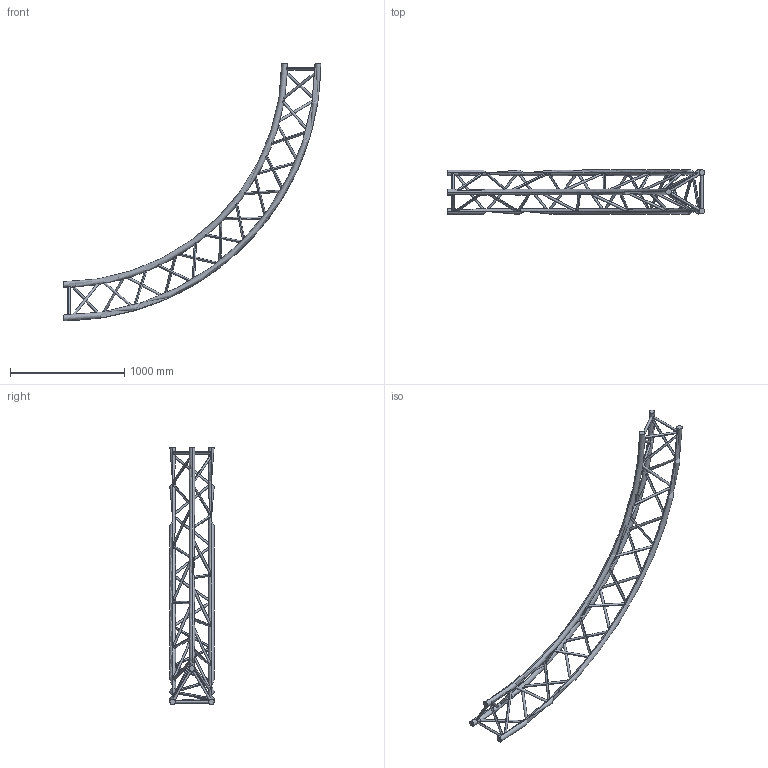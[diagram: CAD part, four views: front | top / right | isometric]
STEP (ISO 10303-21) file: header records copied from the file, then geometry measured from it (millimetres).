
FILE_DESCRIPTION (( 'STEP AP203' ), '1' );
FILE_NAME ('SXC39450PI.STEP', '2009-10-21T11:42:05', ( 'CEDIA' ), ( 'CEDIA INDUSTRIE' ), 'SwSTEP 2.0', 'SolidWorks 2009', '' );
FILE_SCHEMA (( 'CONFIG_CONTROL_DESIGN' ));
Length unit declared in the file: millimetre
Products named in the file (1): SXC39450PI
Bounding box: 2250 x 387 x 2250 mm (x, y, z)
Volume: 24312593.2 mm3; surface area: 2483313.8 mm2
Topology: 1 solids, 1 shells, 96 faces, 270 edges, 180 vertices
Faces by surface type: cylinder 84, torus 6, plane 6
Entity records: 11227 total; most frequent: CARTESIAN_POINT 8821, ORIENTED_EDGE 540, DIRECTION 314, EDGE_CURVE 270, EDGE_LOOP 180, VERTEX_POINT 180, B_SPLINE_CURVE_WITH_KNOTS 168, AXIS2_PLACEMENT_3D 115
